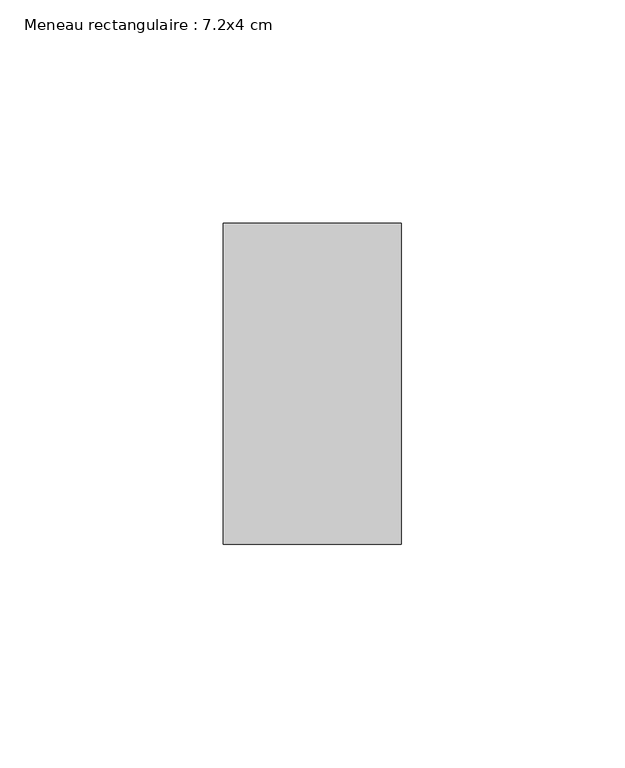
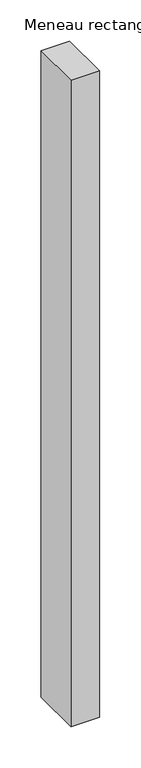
"""IFC4 building model written with IfcOpenShell, lengths in millimetres: member geometry, Meneau rectangulaire : 7.2x4 cm."""

from ifc_helpers import new_model, si_unit, frame, origin, place, context, project, spatial, polyline, outline, extrude, source, transform, mapped, element, save


def meneau_rectangulaire_7_2x4_cm_95ad1c3a(model_context):
    return source(origin(), model_context, "Body", "SweptSolid", [
        extrude(outline(polyline([(20.0, 36.0), (20.0, -36.0), (-20.0, -36.0), (-20.0, 36.0), (20.0, 36.0)])), frame((0.0, 0.0, -954.903395), z_axis=(0.0, 0.0, 1.0), x_axis=(1.0, 0.0, 0.0)), (0.0, 0.0, 1.0), 954.903395),
    ])


if __name__ == "__main__":
    model = new_model("IFC4")
    model_context = context("Model", 3, world=origin())
    ifc_project = project(units=[si_unit("LENGTHUNIT", "METRE", prefix="MILLI")], contexts=[model_context])
    site = spatial("IfcSite", under=ifc_project)
    building = spatial("IfcBuilding", under=site)
    placement = place(None, origin())
    meneau_rectangulaire_7_2x4_cm_shape = meneau_rectangulaire_7_2x4_cm_95ad1c3a(model_context)
    element("IfcMember", 1, ObjectType="Meneau rectangulaire : 7.2x4 cm", at=placement, inside=building, context=model_context, shape_type="MappedRepresentation", body=[
        mapped(meneau_rectangulaire_7_2x4_cm_shape, transform((0.0, 0.0, 0.0), x_axis=(1.0, 0.0, 0.0), y_axis=(0.0, 1.0, 0.0), z_axis=(0.0, 0.0, 1.0))),
    ])
    save(model, "model.ifc")
